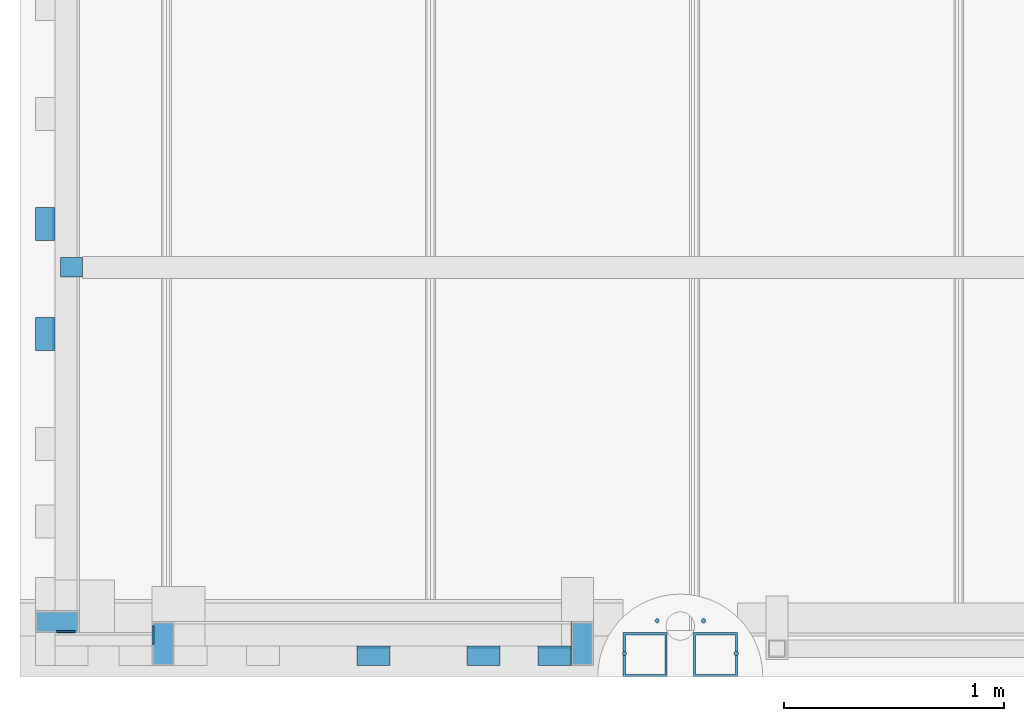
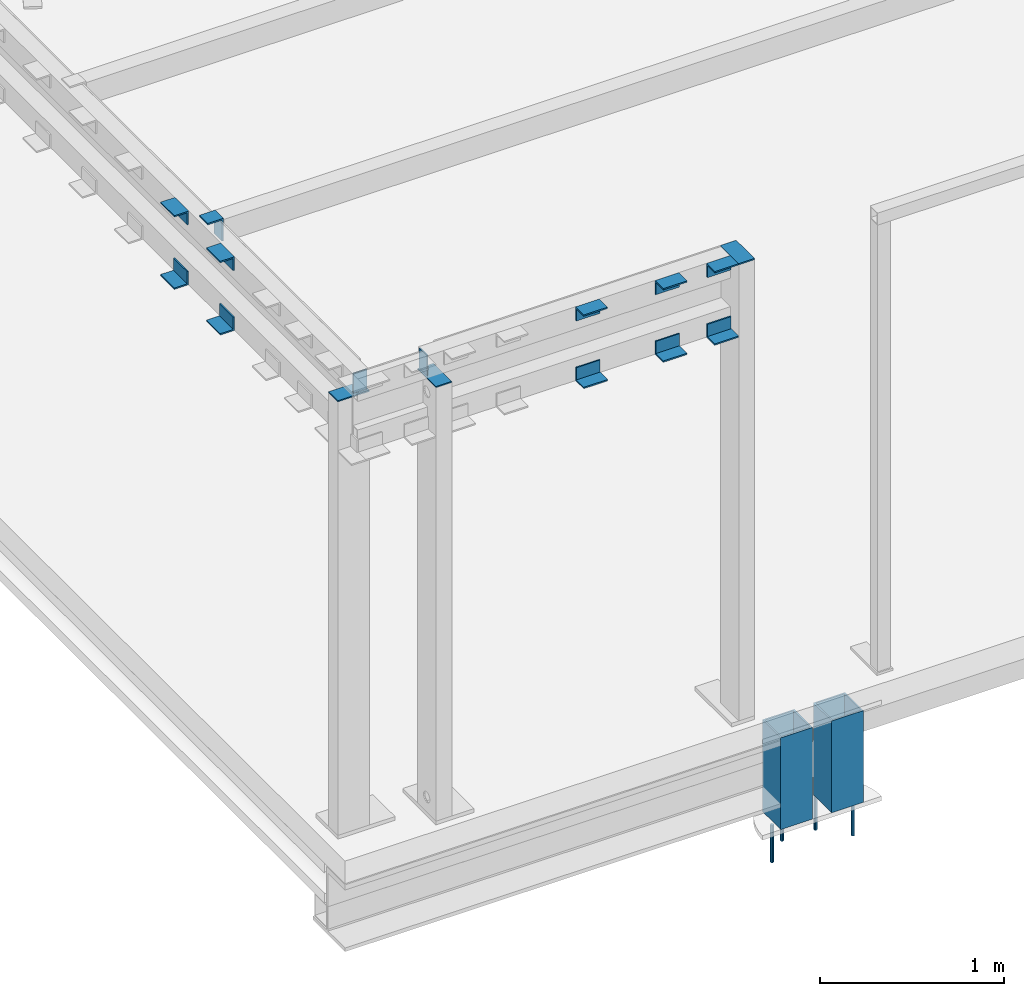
# One storey, part 16 of 30: 22 beams.
"""IFC2X3 building model written with IfcOpenShell, lengths in millimetres."""

from ifc_helpers import new_model, entity, si_unit, converted_unit, derived_unit, direction, frame, origin_with_axes, place, context, subcontext, project, spatial, faceted_brep, material, type_object, element, save


model = new_model("IFC2X3")

# Units and contexts
model_context = context("Model", 3, precision=0.01, world=frame((0.0, 4.29681676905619e-09, 0.0)), true_north=direction((4.01073788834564e-13, 1.0)))
plan_context = context("Plan", 3, precision=0.01, world=frame((0.0, 4.29681676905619e-09, 0.0)), true_north=direction((4.01073788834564e-13, 1.0)))
body_context = subcontext(model_context, "Body", "Model", "MODEL_VIEW")
ifc_project = project(units=[converted_unit("PLANEANGLEUNIT", "DEGREE", entity("IfcPositiveLengthMeasure", 0.0174532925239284), si_unit("PLANEANGLEUNIT", "RADIAN"), dimensions=[0, 0, 0, 0, 0, 0, 0]), si_unit("AREAUNIT", "SQUARE_METRE"), si_unit("LENGTHUNIT", "METRE", prefix="MILLI"), si_unit("MASSUNIT", "GRAM", prefix="KILO"), si_unit("POWERUNIT", "WATT"), si_unit("PRESSUREUNIT", "PASCAL"), si_unit("FORCEUNIT", "NEWTON", prefix="KILO"), si_unit("ELECTRICVOLTAGEUNIT", "VOLT"), si_unit("ELECTRICCURRENTUNIT", "AMPERE"), si_unit("THERMODYNAMICTEMPERATUREUNIT", "DEGREE_CELSIUS"), si_unit("TIMEUNIT", "SECOND"), si_unit("VOLUMEUNIT", "CUBIC_METRE"), derived_unit("LINEARVELOCITYUNIT", [(si_unit("LENGTHUNIT", "METRE"), 1), (si_unit("TIMEUNIT", "SECOND"), -1)]), derived_unit("VOLUMETRICFLOWRATEUNIT", [(si_unit("VOLUMEUNIT", "CUBIC_METRE"), 1), (si_unit("TIMEUNIT", "SECOND"), -1)]), derived_unit("THERMALTRANSMITTANCEUNIT", [(si_unit("POWERUNIT", "WATT"), 1), (si_unit("THERMODYNAMICTEMPERATUREUNIT", "KELVIN"), -1), (si_unit("AREAUNIT", "SQUARE_METRE"), -1)]), derived_unit("SOUNDPRESSUREUNIT", [(si_unit("PRESSUREUNIT", "PASCAL"), 1)])], contexts=[model_context, plan_context])

# Site, building, storey
site_placement = place(None, frame((0.0, -4.29681676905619e-09, 0.0), z_axis=(0.0, 0.0, 1.0), x_axis=(1.0, 0.0, 0.0)))
site = spatial("IfcSite", under=ifc_project, at=site_placement, Name="Gardermoen", CompositionType="ELEMENT")
building_placement = place(site_placement, frame((0.0, 4.29681676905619e-09, 0.0), z_axis=(0.0, 0.0, 1.0), x_axis=(1.0, 0.0, 0.0)))
building = spatial("IfcBuilding", under=site, at=building_placement, Name="TI", CompositionType="ELEMENT")
storey_placement = place(building_placement, origin_with_axes())
storey = spatial("IfcBuildingStorey", under=building, at=storey_placement, Name="F", CompositionType="ELEMENT", Elevation=0.0)

# Beams
ifc_material = material(Name="STEEL/S355")
beam_type_1 = type_object("IfcBeamType", Name="PL8*100", PredefinedType="NOTDEFINED")
for number, where, z_axis, x_axis in (
    (1, (600504.2316662, 689249.997607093, 213891.000686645), (1.0, 0.0, 0.0), (0.0, -1.0, 0.0)),
    (2, (598600.0016662, 689249.997607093, 213741.000686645), (1.0, 0.0, 0.0), (0.0, -1.0, 0.0)),
    (3, (598270.0016662, 689300.006762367, 213741.000686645), (-5.80000057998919e-08, -0.999999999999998, 0.0), (-0.999999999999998, 5.80000057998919e-08, 0.0)),
):
    element("IfcBeam", number, at=place(storey_placement, frame(where, z_axis=z_axis, x_axis=x_axis)), inside=storey, type_object=beam_type_1, material=ifc_material, Name="STÅLBJELKE", ObjectType="PL8*100", context=body_context, shape_type="Brep", body=[
        faceted_brep([(-5.82076609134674e-11, -3.99999999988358, 0.0), (3.95812094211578e-09, -3.99999999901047, 100.000000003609), (4.30736690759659e-09, 4.00000000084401, 100.000000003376), (-5.82076609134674e-11, 4.00000000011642, -5.82076609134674e-11), (199.999999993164, -4.0, 99.9999999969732), (199.999999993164, 4.0, 99.9999999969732), (200.0, -4.0, -1.97906047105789e-09), (200.0, 4.00000000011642, -1.62981450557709e-09)], [[[0, 1, 2, 3]], [[1, 4, 5, 2]], [[4, 6, 7, 5]], [[6, 0, 3, 7]], [[5, 7, 3, 2]], [[6, 4, 1, 0]]]),
    ])
beam_type_2 = type_object("IfcBeamType", Name="L90*9", PredefinedType="NOTDEFINED")
for number, where, z_axis, x_axis in (
    (4, (598114.998348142, 690481.002304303, 213449.999618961), (-0.999999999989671, -4.54499979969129e-06, 0.0), (-4.54499979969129e-06, 0.999999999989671, -1.52795109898e-11)),
    (5, (598114.998348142, 690481.002304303, 213849.999618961), (9.05696637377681e-17, -1.5279510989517e-11, -1.0), (-5.9275237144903e-06, 0.999999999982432, -1.52795109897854e-11)),
    (6, (598114.998348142, 690981.002304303, 213449.999618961), (-0.999999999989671, -4.54499979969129e-06, 0.0), (-4.54499979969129e-06, 0.999999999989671, -1.52795109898e-11)),
    (7, (598114.998348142, 690981.002304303, 213849.999618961), (9.05696637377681e-17, -1.5279510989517e-11, -1.0), (-5.9275237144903e-06, 0.999999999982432, -1.52795109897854e-11)),
    (8, (600179.998348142, 689095.002531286, 213449.999618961), (-5.80000057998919e-08, -0.999999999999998, 0.0), (-0.999999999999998, 5.80000057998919e-08, 0.0)),
    (9, (600179.998348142, 689095.002531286, 213849.999618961), (0.0, 0.0, -1.0), (-0.999999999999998, 5.80000057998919e-08, 0.0)),
    (10, (600504.2316662, 689095.002531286, 213450.000686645), (-5.80000057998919e-08, -0.999999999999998, 0.0), (-0.999999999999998, 5.80000057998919e-08, 0.0)),
    (11, (600504.2316662, 689095.002531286, 213850.000686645), (0.0, 0.0, -1.0), (-0.999999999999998, 5.80000057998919e-08, 0.0)),
    (12, (599679.998348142, 689095.002531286, 213449.999618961), (-5.80000057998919e-08, -0.999999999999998, 0.0), (-0.999999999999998, 5.80000057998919e-08, 0.0)),
    (13, (599679.998348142, 689095.002531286, 213849.999618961), (0.0, 0.0, -1.0), (-0.999999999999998, 5.80000057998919e-08, 0.0)),
):
    element("IfcBeam", number, at=place(storey_placement, frame(where, z_axis=z_axis, x_axis=x_axis)), inside=storey, type_object=beam_type_2, material=ifc_material, Name="STÅLBJELKE", ObjectType="L90*9", context=body_context, shape_type="Brep", body=[
        faceted_brep([(0.0, 45.0, -45.0), (0.0, 45.0, 45.0), (149.99878331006, 45.0, 45.0000000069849), (149.998783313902, 45.0, -44.9999999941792), (8.14907252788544e-10, 36.0, 44.9999999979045), (149.99878331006, 36.0, 45.0000000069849), (-4.65661287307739e-10, 36.0, -35.9999999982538), (149.998783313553, 36.0, -35.9999999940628), (-4.65661287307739e-10, -45.0, -35.9999999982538), (149.998783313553, -45.0, -35.9999999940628), (0.0, -45.0, -45.0), (149.998783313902, -45.0, -44.9999999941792)], [[[0, 1, 2, 3]], [[1, 4, 5, 2]], [[4, 6, 7, 5]], [[6, 8, 9, 7]], [[8, 10, 11, 9]], [[10, 0, 3, 11]], [[5, 7, 9, 11, 3, 2]], [[10, 8, 6, 4, 1, 0]]]),
    ])
beam_type_3 = type_object("IfcBeamType", Name="L150*100*10", PredefinedType="NOTDEFINED")
beam_placement = place(storey_placement, frame((598233.998348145, 690815.002110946, 213829.999618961), z_axis=(0.0, 0.0, -1.0), x_axis=(-8.11000009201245e-06, 0.999999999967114, 0.0)))
element("IfcBeam", 14, at=beam_placement, inside=storey, type_object=beam_type_3, material=ifc_material, Name="STÅLBJELKE", ObjectType="L150*100*10", context=body_context, shape_type="Brep", body=[
    faceted_brep([(0.0, 50.0, -75.0), (0.0, 50.0, 75.0), (89.9987833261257, 49.9999999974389, 75.0), (89.9987833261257, 49.9999999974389, -75.0), (-5.82076609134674e-10, 40.0000000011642, 75.0), (89.99878332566, 39.9999999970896, 75.0), (1.28056854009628e-09, 40.0, -64.9999999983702), (89.99878332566, 39.9999999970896, -65.0), (1.28056854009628e-09, -50.0, -64.9999999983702), (89.9987833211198, -50.00000000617, -65.0), (0.0, -50.0, -75.0), (89.9987833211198, -50.00000000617, -75.0)], [[[0, 1, 2, 3]], [[1, 4, 5, 2]], [[4, 6, 7, 5]], [[6, 8, 9, 7]], [[8, 10, 11, 9]], [[10, 0, 3, 11]], [[5, 7, 9, 11, 3, 2]], [[10, 8, 6, 4, 1, 0]]]),
])
beam_type_4 = type_object("IfcBeamType", Name="PL8*84", PredefinedType="NOTDEFINED")
for number, where, z_axis, x_axis in (
    (15, (598604.001658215, 689231.997565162, 213891.999621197), (0.0, 0.0, -1.0), (0.0, -1.0, 0.0)),
    (16, (598168.001651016, 689204.007471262, 213891.999619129), (-2.87545844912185e-11, -4.52680543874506e-17, -1.0), (0.999999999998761, 1.57428998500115e-06, -2.87545844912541e-11)),
):
    element("IfcBeam", number, at=place(storey_placement, frame(where, z_axis=z_axis, x_axis=x_axis)), inside=storey, type_object=beam_type_4, material=ifc_material, Name="STÅLBJELKE", ObjectType="PL8*84", context=body_context, shape_type="Brep", body=[
        faceted_brep([(-5.82076609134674e-11, -3.99999999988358, 0.0), (0.0, -4.00000000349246, 134.000000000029), (0.0, 3.99999999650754, 134.000000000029), (-5.82076609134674e-11, 4.00000000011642, -5.82076609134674e-11), (84.0, -4.00000000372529, 134.000000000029), (84.0, 3.99999999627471, 134.000000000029), (84.0, -4.00000000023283, 2.91038304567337e-11), (84.0, 3.99999999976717, 0.0)], [[[0, 1, 2, 3]], [[1, 4, 5, 2]], [[4, 6, 7, 5]], [[6, 0, 3, 7]], [[5, 7, 3, 2]], [[6, 4, 1, 0]]]),
    ])
beam_type_5 = type_object("IfcBeamType", Name="M20", PredefinedType="NOTDEFINED")
for number, where, z_axis, x_axis in (
    (17, (600745.938727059, 689105.235538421, 210049.88), (0.923879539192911, 0.382683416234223, 0.0), (0.0, 0.0, -1.0)),
    (18, (601105.235477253, 689254.061125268, 210049.88), (0.923879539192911, 0.382683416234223, 0.0), (0.0, 0.0, -1.0)),
    (19, (601254.06676702, 689105.237900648, 210049.88), (0.923879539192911, 0.382683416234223, 0.0), (0.0, 0.0, -1.0)),
    (20, (600894.761951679, 689254.066828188, 210049.88), (0.923879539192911, 0.382683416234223, 0.0), (0.0, 0.0, -1.0)),
):
    element("IfcBeam", number, at=place(storey_placement, frame(where, z_axis=z_axis, x_axis=x_axis)), inside=storey, type_object=beam_type_5, material=ifc_material, Name="INNSTØPNGODS", ObjectType="M20", context=body_context, shape_type="Brep", body=[
        faceted_brep([(0.0, -10.0, -1.16415321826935e-10), (0.0, -7.07106781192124, -7.07106781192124), (250.0, -7.07106781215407, -7.07106781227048), (250.0, -10.0000000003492, 1.74622982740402e-10), (0.0, 0.0, -10.0), (250.0, 5.82076609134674e-11, -10.0000000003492), (0.0, 7.07106781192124, -7.07106781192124), (250.0, 7.07106781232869, -7.07106781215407), (0.0, 10.0, -1.16415321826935e-10), (250.0, 10.0, 0.0), (0.0, 7.07106781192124, 7.07106781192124), (250.0, 7.07106781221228, 7.07106781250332), (0.0, 0.0, 10.0), (250.0, -5.82076609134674e-11, 10.0000000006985), (0.0, -7.07106781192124, 7.07106781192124), (250.0, -7.07106781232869, 7.07106781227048)], [[[0, 1, 2, 3]], [[1, 4, 5, 2]], [[4, 6, 7, 5]], [[6, 8, 9, 7]], [[8, 10, 11, 9]], [[10, 12, 13, 11]], [[12, 14, 15, 13]], [[14, 0, 3, 15]], [[5, 7, 9, 11, 13, 15, 3, 2]], [[14, 12, 10, 8, 6, 4, 1, 0]]]),
    ])
beam_type_6 = type_object("IfcBeamType", Name="RHS200*200*10", PredefinedType="NOTDEFINED")
for number, where, z_axis, x_axis in (
    (21, (600839.999766, 689100.0, 210080.0), (-0.999999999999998, 5.80000057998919e-08, 0.0), (0.0, 0.0, 1.0)),
    (22, (601159.999766, 689100.0, 210080.0), (-0.999999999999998, 5.80000057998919e-08, 0.0), (0.0, 0.0, 1.0)),
):
    element("IfcBeam", number, at=place(storey_placement, frame(where, z_axis=z_axis, x_axis=x_axis)), inside=storey, type_object=beam_type_6, material=ifc_material, Name="STÅLBJELKE", ObjectType="RHS200*200*10", context=body_context, shape_type="Brep", body=[
        faceted_brep([(0.0, 90.0, -90.0), (0.0, -90.0, -90.0), (610.0, -90.0, -90.0), (610.0, 90.0, -90.0), (0.0, -90.0, 90.0), (610.0, -90.0, 90.0), (0.0, 90.0, 90.0), (610.0, 90.0, 90.0), (-2.44472175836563e-09, 99.9999999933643, -100.0), (-8.84756445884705e-09, 99.9999999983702, 99.9999999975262), (610.0, 100.0, 100.0), (610.0, 100.0, -100.0), (2.44472175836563e-09, -99.9999999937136, 100.000000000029), (610.0, -100.0, 100.0), (8.73114913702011e-09, -99.9999999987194, -99.9999999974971), (610.0, -100.0, -100.0)], [[[0, 1, 2, 3]], [[1, 4, 5, 2]], [[4, 6, 7, 5]], [[6, 0, 3, 7]], [[8, 9, 10, 11]], [[9, 12, 13, 10]], [[12, 14, 15, 13]], [[14, 8, 11, 15]], [[13, 15, 11, 10], [5, 7, 3, 2]], [[14, 12, 9, 8], [6, 4, 1, 0]]]),
    ])

save(model, "model.ifc")
